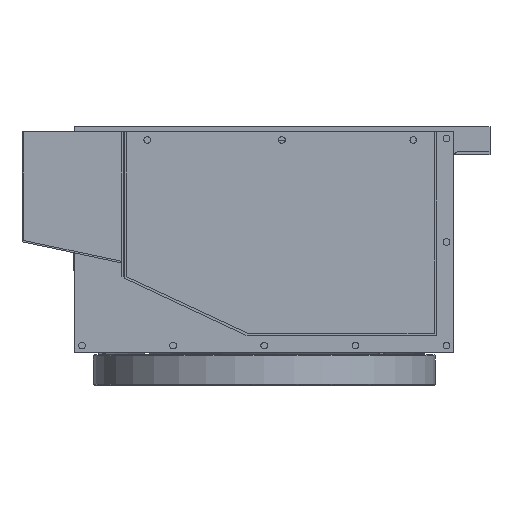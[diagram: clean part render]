
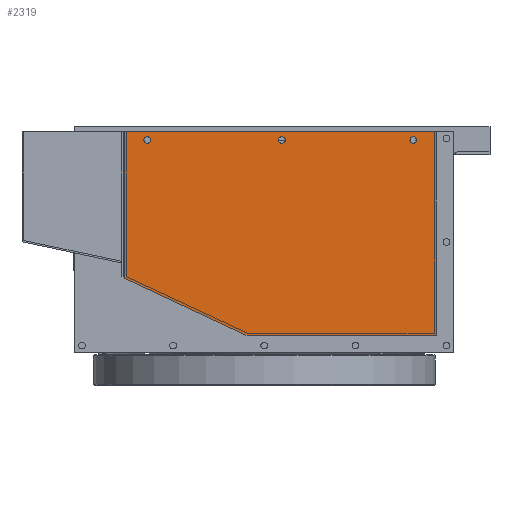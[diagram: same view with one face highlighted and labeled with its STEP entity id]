
A CAD part, left-side view. The second image highlights one B-rep face of the part: STEP entity #2319.
In plain terms, the highlighted planar face has unit normal (-1, 0, 0).
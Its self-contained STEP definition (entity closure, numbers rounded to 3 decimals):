
#62 = VERTEX_POINT ( 'NONE', #11832 ) ;
#138 = FACE_OUTER_BOUND ( 'NONE', #7012, .T. ) ;
#181 = DIRECTION ( 'NONE',  ( 0., 1., 0. ) ) ;
#641 = VERTEX_POINT ( 'NONE', #16928 ) ;
#962 = DIRECTION ( 'NONE',  ( -1., 0., 0. ) ) ;
#1179 = AXIS2_PLACEMENT_3D ( 'NONE', #8045, #19444, #6333 ) ;
#1571 = ORIENTED_EDGE ( 'NONE', *, *, #2585, .F. ) ;
#1824 = AXIS2_PLACEMENT_3D ( 'NONE', #12259, #962, #18774 ) ;
#2125 = VECTOR ( 'NONE', #4847, 1000. ) ;
#2258 = VERTEX_POINT ( 'NONE', #3027 ) ;
#2319 = ADVANCED_FACE ( 'NONE', ( #11348, #11436, #6643, #138 ), #7953, .T. ) ;
#2585 = EDGE_CURVE ( 'NONE', #641, #13800, #7307, .T. ) ;
#2841 = AXIS2_PLACEMENT_3D ( 'NONE', #15430, #10517, #12539 ) ;
#3027 = CARTESIAN_POINT ( 'NONE',  ( -440., -166.3, 213.5 ) ) ;
#3274 = EDGE_CURVE ( 'NONE', #2258, #12994, #16707, .T. ) ;
#3411 = CARTESIAN_POINT ( 'NONE',  ( -440., 135.3, 213.5 ) ) ;
#3501 = EDGE_LOOP ( 'NONE', ( #15933, #1571 ) ) ;
#3742 = EDGE_CURVE ( 'NONE', #12994, #7163, #9990, .T. ) ;
#3908 = CARTESIAN_POINT ( 'NONE',  ( -440., -13.75, 205.5 ) ) ;
#4001 = VECTOR ( 'NONE', #11450, 1000. ) ;
#4073 = DIRECTION ( 'NONE',  ( 0., 1., 0. ) ) ;
#4346 = EDGE_CURVE ( 'NONE', #6461, #9401, #20213, .T. ) ;
#4480 = CARTESIAN_POINT ( 'NONE',  ( -440., -144., 205.5 ) ) ;
#4530 = VECTOR ( 'NONE', #8374, 1000. ) ;
#4533 = EDGE_CURVE ( 'NONE', #13800, #641, #6680, .T. ) ;
#4652 = AXIS2_PLACEMENT_3D ( 'NONE', #4480, #20915, #10993 ) ;
#4847 = DIRECTION ( 'NONE',  ( 0., -1., 0. ) ) ;
#5747 = DIRECTION ( 'NONE',  ( -1., 0., 0. ) ) ;
#5800 = CIRCLE ( 'NONE', #8511, 3.25 ) ;
#5963 = VERTEX_POINT ( 'NONE', #17433 ) ;
#6004 = CIRCLE ( 'NONE', #15174, 3.25 ) ;
#6333 = DIRECTION ( 'NONE',  ( 0., 1., 0. ) ) ;
#6415 = ORIENTED_EDGE ( 'NONE', *, *, #7095, .T. ) ;
#6461 = VERTEX_POINT ( 'NONE', #8532 ) ;
#6500 = EDGE_CURVE ( 'NONE', #5963, #2258, #20565, .T. ) ;
#6643 = FACE_BOUND ( 'NONE', #6832, .T. ) ;
#6680 = CIRCLE ( 'NONE', #4652, 3.25 ) ;
#6832 = EDGE_LOOP ( 'NONE', ( #20193, #18937 ) ) ;
#7012 = EDGE_LOOP ( 'NONE', ( #14620, #21090, #6415, #9029, #17387 ) ) ;
#7095 = EDGE_CURVE ( 'NONE', #62, #5963, #9659, .T. ) ;
#7163 = VERTEX_POINT ( 'NONE', #14951 ) ;
#7216 = VECTOR ( 'NONE', #10243, 1000. ) ;
#7270 = ORIENTED_EDGE ( 'NONE', *, *, #13729, .F. ) ;
#7307 = CIRCLE ( 'NONE', #12755, 3.25 ) ;
#7953 = PLANE ( 'NONE',  #1179 ) ;
#8045 = CARTESIAN_POINT ( 'NONE',  ( -440., -183., 213.5 ) ) ;
#8058 = CARTESIAN_POINT ( 'NONE',  ( -440., 135.3, 72.035 ) ) ;
#8254 = VECTOR ( 'NONE', #181, 1000. ) ;
#8374 = DIRECTION ( 'NONE',  ( 0., 0., -1. ) ) ;
#8511 = AXIS2_PLACEMENT_3D ( 'NONE', #20354, #5747, #18754 ) ;
#8532 = CARTESIAN_POINT ( 'NONE',  ( -440., 116.25, 205.5 ) ) ;
#8992 = DIRECTION ( 'NONE',  ( -1., 0., 0. ) ) ;
#9029 = ORIENTED_EDGE ( 'NONE', *, *, #6500, .T. ) ;
#9050 = CARTESIAN_POINT ( 'NONE',  ( -440., 109.75, 205.5 ) ) ;
#9401 = VERTEX_POINT ( 'NONE', #9050 ) ;
#9448 = LINE ( 'NONE', #8058, #4001 ) ;
#9485 = EDGE_CURVE ( 'NONE', #17806, #16180, #5800, .T. ) ;
#9659 = LINE ( 'NONE', #14227, #2125 ) ;
#9990 = LINE ( 'NONE', #17878, #4530 ) ;
#10243 = DIRECTION ( 'NONE',  ( 0., 0., 1. ) ) ;
#10517 = DIRECTION ( 'NONE',  ( -1., 0., 0. ) ) ;
#10993 = DIRECTION ( 'NONE',  ( 0., 1., 0. ) ) ;
#11348 = FACE_BOUND ( 'NONE', #3501, .T. ) ;
#11436 = FACE_BOUND ( 'NONE', #18260, .T. ) ;
#11450 = DIRECTION ( 'NONE',  ( 0., -0.906, -0.423 ) ) ;
#11832 = CARTESIAN_POINT ( 'NONE',  ( -440., 16.634, 16.7 ) ) ;
#12259 = CARTESIAN_POINT ( 'NONE',  ( -440., 113., 205.5 ) ) ;
#12281 = CARTESIAN_POINT ( 'NONE',  ( -440., -144., 205.5 ) ) ;
#12449 = CARTESIAN_POINT ( 'NONE',  ( -440., -166.3, 16.7 ) ) ;
#12539 = DIRECTION ( 'NONE',  ( 0., 1., 0. ) ) ;
#12755 = AXIS2_PLACEMENT_3D ( 'NONE', #12281, #15378, #4073 ) ;
#12994 = VERTEX_POINT ( 'NONE', #3411 ) ;
#13729 = EDGE_CURVE ( 'NONE', #16180, #17806, #16120, .T. ) ;
#13800 = VERTEX_POINT ( 'NONE', #18726 ) ;
#13894 = EDGE_CURVE ( 'NONE', #7163, #62, #9448, .T. ) ;
#14227 = CARTESIAN_POINT ( 'NONE',  ( -440., 16.634, 16.7 ) ) ;
#14620 = ORIENTED_EDGE ( 'NONE', *, *, #3742, .T. ) ;
#14789 = CARTESIAN_POINT ( 'NONE',  ( -440., -166.3, 213.5 ) ) ;
#14951 = CARTESIAN_POINT ( 'NONE',  ( -440., 135.3, 72.035 ) ) ;
#15174 = AXIS2_PLACEMENT_3D ( 'NONE', #18477, #8992, #16980 ) ;
#15378 = DIRECTION ( 'NONE',  ( -1., 0., 0. ) ) ;
#15430 = CARTESIAN_POINT ( 'NONE',  ( -440., -17., 205.5 ) ) ;
#15933 = ORIENTED_EDGE ( 'NONE', *, *, #4533, .F. ) ;
#16093 = CARTESIAN_POINT ( 'NONE',  ( -440., -20.25, 205.5 ) ) ;
#16120 = CIRCLE ( 'NONE', #2841, 3.25 ) ;
#16180 = VERTEX_POINT ( 'NONE', #16093 ) ;
#16707 = LINE ( 'NONE', #14789, #8254 ) ;
#16928 = CARTESIAN_POINT ( 'NONE',  ( -440., -147.25, 205.5 ) ) ;
#16980 = DIRECTION ( 'NONE',  ( 0., 1., 0. ) ) ;
#17387 = ORIENTED_EDGE ( 'NONE', *, *, #3274, .T. ) ;
#17433 = CARTESIAN_POINT ( 'NONE',  ( -440., -166.3, 16.7 ) ) ;
#17806 = VERTEX_POINT ( 'NONE', #3908 ) ;
#17878 = CARTESIAN_POINT ( 'NONE',  ( -440., 135.3, 213.5 ) ) ;
#18260 = EDGE_LOOP ( 'NONE', ( #20802, #7270 ) ) ;
#18477 = CARTESIAN_POINT ( 'NONE',  ( -440., 113., 205.5 ) ) ;
#18726 = CARTESIAN_POINT ( 'NONE',  ( -440., -140.75, 205.5 ) ) ;
#18754 = DIRECTION ( 'NONE',  ( 0., 1., 0. ) ) ;
#18774 = DIRECTION ( 'NONE',  ( 0., 1., 0. ) ) ;
#18937 = ORIENTED_EDGE ( 'NONE', *, *, #20904, .F. ) ;
#19444 = DIRECTION ( 'NONE',  ( -1., 0., 0. ) ) ;
#20193 = ORIENTED_EDGE ( 'NONE', *, *, #4346, .F. ) ;
#20213 = CIRCLE ( 'NONE', #1824, 3.25 ) ;
#20354 = CARTESIAN_POINT ( 'NONE',  ( -440., -17., 205.5 ) ) ;
#20565 = LINE ( 'NONE', #12449, #7216 ) ;
#20802 = ORIENTED_EDGE ( 'NONE', *, *, #9485, .F. ) ;
#20904 = EDGE_CURVE ( 'NONE', #9401, #6461, #6004, .T. ) ;
#20915 = DIRECTION ( 'NONE',  ( -1., 0., 0. ) ) ;
#21090 = ORIENTED_EDGE ( 'NONE', *, *, #13894, .T. ) ;
